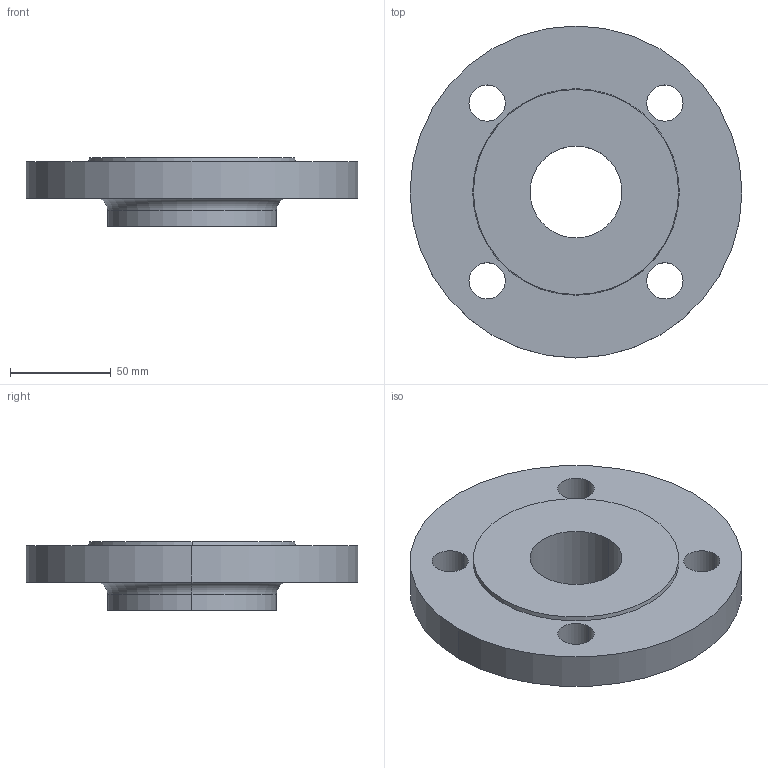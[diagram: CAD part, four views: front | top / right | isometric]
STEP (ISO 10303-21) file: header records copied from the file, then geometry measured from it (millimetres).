
FILE_DESCRIPTION (( 'STEP AP214' ), '1' );
FILE_NAME ('PN40 DN50 Type 13 - Type B Face.STEP', '2018-12-30T04:31:53', ( '' ), ( '' ), 'SwSTEP 2.0', 'SolidWorks 2019', '' );
FILE_SCHEMA (( 'AUTOMOTIVE_DESIGN' ));
Length unit declared in the file: millimetre
Products named in the file (1): PN40 DN50 Type 13 - Type B Face
Bounding box: 165 x 165 x 34 mm (x, y, z)
Volume: 407010.1 mm3; surface area: 59303.7 mm2
Topology: 1 solids, 1 shells, 22 faces, 52 edges, 34 vertices
Faces by surface type: cylinder 14, plane 4, torus 2, cone 2
Entity records: 710 total; most frequent: DIRECTION 134, CARTESIAN_POINT 109, ORIENTED_EDGE 104, AXIS2_PLACEMENT_3D 59, EDGE_CURVE 52, CIRCLE 36, VERTEX_POINT 34, EDGE_LOOP 34
